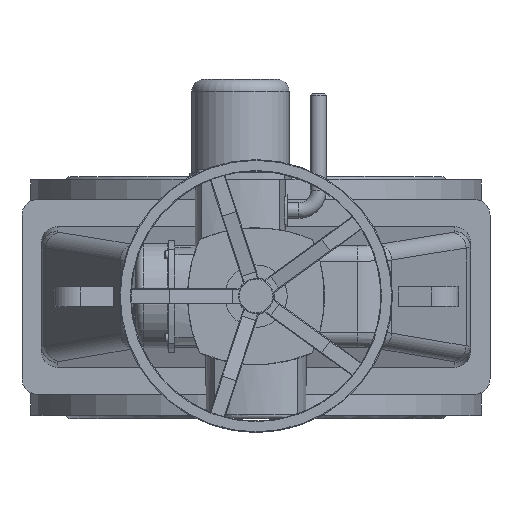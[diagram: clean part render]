
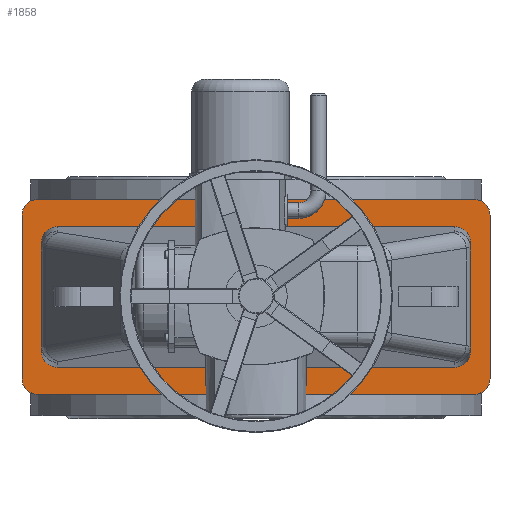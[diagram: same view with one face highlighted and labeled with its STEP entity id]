
A CAD part, top view. The second image highlights one B-rep face of the part: STEP entity #1858.
In plain terms, the highlighted planar face has unit normal (0, 0, 1).
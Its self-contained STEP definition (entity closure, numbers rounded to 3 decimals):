
#1858=ADVANCED_FACE('',(#8162,#8164),#8166,.T.);
#8162=FACE_BOUND('',#8163,.T.);
#8163=EDGE_LOOP('',(#13186,#13187,#13188,#13189,#13190,#13191,#13192,#13193));
#8164=FACE_BOUND('',#8165,.T.);
#8165=EDGE_LOOP('',(#13194,#13195,#13196,#13197,#13198,#13199,#13200,#13201));
#8166=PLANE('',#8167);
#8167=AXIS2_PLACEMENT_3D('',#8168,#8169,#8170);
#8168=CARTESIAN_POINT('',(0.,0.,466.));
#8169=DIRECTION('',(0.,-0.,1.));
#8170=DIRECTION('',(0.,1.,0.));
#13186=ORIENTED_EDGE('',*,*,#15236,.F.);
#13187=ORIENTED_EDGE('',*,*,#15249,.T.);
#13188=ORIENTED_EDGE('',*,*,#15248,.F.);
#13189=ORIENTED_EDGE('',*,*,#15246,.T.);
#13190=ORIENTED_EDGE('',*,*,#15244,.F.);
#13191=ORIENTED_EDGE('',*,*,#15242,.T.);
#13192=ORIENTED_EDGE('',*,*,#15240,.F.);
#13193=ORIENTED_EDGE('',*,*,#15237,.T.);
#13194=ORIENTED_EDGE('',*,*,#15250,.F.);
#13195=ORIENTED_EDGE('',*,*,#15251,.F.);
#13196=ORIENTED_EDGE('',*,*,#15252,.F.);
#13197=ORIENTED_EDGE('',*,*,#15253,.F.);
#13198=ORIENTED_EDGE('',*,*,#15254,.F.);
#13199=ORIENTED_EDGE('',*,*,#15255,.F.);
#13200=ORIENTED_EDGE('',*,*,#15256,.F.);
#13201=ORIENTED_EDGE('',*,*,#15257,.F.);
#15236=EDGE_CURVE('',#16937,#16935,#16939,.F.);
#15237=EDGE_CURVE('',#16940,#16935,#16941,.T.);
#15240=EDGE_CURVE('',#16940,#16943,#16945,.F.);
#15242=EDGE_CURVE('',#16946,#16943,#16948,.T.);
#15244=EDGE_CURVE('',#16946,#16949,#16951,.F.);
#15246=EDGE_CURVE('',#16952,#16949,#16954,.T.);
#15248=EDGE_CURVE('',#16952,#16955,#16957,.F.);
#15249=EDGE_CURVE('',#16937,#16955,#16958,.T.);
#15250=EDGE_CURVE('',#16959,#16960,#16961,.F.);
#15251=EDGE_CURVE('',#16962,#16959,#16963,.T.);
#15252=EDGE_CURVE('',#16964,#16962,#16965,.T.);
#15253=EDGE_CURVE('',#16966,#16964,#16967,.T.);
#15254=EDGE_CURVE('',#16968,#16966,#16969,.F.);
#15255=EDGE_CURVE('',#16970,#16968,#16971,.T.);
#15256=EDGE_CURVE('',#16972,#16970,#16973,.T.);
#15257=EDGE_CURVE('',#16960,#16972,#16974,.T.);
#16935=VERTEX_POINT('',#22575);
#16937=VERTEX_POINT('',#22579);
#16939=CIRCLE('',#22583,20.);
#16940=VERTEX_POINT('',#22587);
#16941=LINE('',#22588,#22589);
#16943=VERTEX_POINT('',#22594);
#16945=CIRCLE('',#22598,20.);
#16946=VERTEX_POINT('',#22602);
#16948=LINE('',#22606,#22607);
#16949=VERTEX_POINT('',#22609);
#16951=CIRCLE('',#22613,20.);
#16952=VERTEX_POINT('',#22617);
#16954=LINE('',#22621,#22622);
#16955=VERTEX_POINT('',#22624);
#16957=CIRCLE('',#22628,20.);
#16958=LINE('',#22632,#22633);
#16959=VERTEX_POINT('',#22635);
#16960=VERTEX_POINT('',#22636);
#16961=(BOUNDED_CURVE()B_SPLINE_CURVE(3,
(#22637,#22638,#22639,#22640),
.UNSPECIFIED.,.F.,.F.)B_SPLINE_CURVE_WITH_KNOTS((4,4),
(0.,1.),
.UNSPECIFIED.)CURVE()GEOMETRIC_REPRESENTATION_ITEM()RATIONAL_B_SPLINE_CURVE((1.,
0.805,0.805,1.))REPRESENTATION_ITEM(''));
#16962=VERTEX_POINT('',#22641);
#16963=LINE('',#22642,#22643);
#16964=VERTEX_POINT('',#22645);
#16965=(BOUNDED_CURVE()B_SPLINE_CURVE(3,
(#22646,#22647,#22648,#22649),
.UNSPECIFIED.,.F.,.F.)B_SPLINE_CURVE_WITH_KNOTS((4,4),
(0.,1.),
.UNSPECIFIED.)CURVE()GEOMETRIC_REPRESENTATION_ITEM()RATIONAL_B_SPLINE_CURVE((1.,
0.805,0.805,1.))REPRESENTATION_ITEM(''));
#16966=VERTEX_POINT('',#22650);
#16967=LINE('',#22651,#22652);
#16968=VERTEX_POINT('',#22654);
#16969=(BOUNDED_CURVE()B_SPLINE_CURVE(3,
(#22655,#22656,#22657,#22658),
.UNSPECIFIED.,.F.,.F.)B_SPLINE_CURVE_WITH_KNOTS((4,4),
(0.,1.),
.UNSPECIFIED.)CURVE()GEOMETRIC_REPRESENTATION_ITEM()RATIONAL_B_SPLINE_CURVE((1.,
0.805,0.805,1.))REPRESENTATION_ITEM(''));
#16970=VERTEX_POINT('',#22659);
#16971=LINE('',#22660,#22661);
#16972=VERTEX_POINT('',#22663);
#16973=(BOUNDED_CURVE()B_SPLINE_CURVE(3,
(#22664,#22665,#22666,#22667),
.UNSPECIFIED.,.F.,.F.)B_SPLINE_CURVE_WITH_KNOTS((4,4),
(0.,1.),
.UNSPECIFIED.)CURVE()GEOMETRIC_REPRESENTATION_ITEM()RATIONAL_B_SPLINE_CURVE((1.,
0.805,0.805,1.))REPRESENTATION_ITEM(''));
#16974=LINE('',#22668,#22669);
#22575=CARTESIAN_POINT('',(-300.,-105.,466.));
#22579=CARTESIAN_POINT('',(-280.,-125.,466.));
#22583=AXIS2_PLACEMENT_3D('',#22584,#22585,#22586);
#22584=CARTESIAN_POINT('',(-280.,-105.,466.));
#22585=DIRECTION('',(0.,-0.,1.));
#22586=DIRECTION('',(-1.,0.,0.));
#22587=CARTESIAN_POINT('',(-300.,105.,466.));
#22588=CARTESIAN_POINT('',(-300.,105.,466.));
#22589=VECTOR('',#22590,1.);
#22590=DIRECTION('',(0.,-1.,0.));
#22594=CARTESIAN_POINT('',(-280.,125.,466.));
#22598=AXIS2_PLACEMENT_3D('',#22599,#22600,#22601);
#22599=CARTESIAN_POINT('',(-280.,105.,466.));
#22600=DIRECTION('',(0.,-0.,1.));
#22601=DIRECTION('',(0.,1.,0.));
#22602=CARTESIAN_POINT('',(280.,125.,466.));
#22606=CARTESIAN_POINT('',(280.,125.,466.));
#22607=VECTOR('',#22608,1.);
#22608=DIRECTION('',(-1.,0.,0.));
#22609=CARTESIAN_POINT('',(300.,105.,466.));
#22613=AXIS2_PLACEMENT_3D('',#22614,#22615,#22616);
#22614=CARTESIAN_POINT('',(280.,105.,466.));
#22615=DIRECTION('',(0.,-0.,1.));
#22616=DIRECTION('',(1.,0.,0.));
#22617=CARTESIAN_POINT('',(300.,-105.,466.));
#22621=CARTESIAN_POINT('',(300.,-105.,466.));
#22622=VECTOR('',#22623,1.);
#22623=DIRECTION('',(0.,1.,0.));
#22624=CARTESIAN_POINT('',(280.,-125.,466.));
#22628=AXIS2_PLACEMENT_3D('',#22629,#22630,#22631);
#22629=CARTESIAN_POINT('',(280.,-105.,466.));
#22630=DIRECTION('',(0.,-0.,1.));
#22631=DIRECTION('',(0.,-1.,0.));
#22632=CARTESIAN_POINT('',(-280.,-125.,466.));
#22633=VECTOR('',#22634,1.);
#22634=DIRECTION('',(1.,0.,0.));
#22635=CARTESIAN_POINT('',(255.,-90.,466.));
#22636=CARTESIAN_POINT('',(275.,-69.924,466.));
#22637=CARTESIAN_POINT('',(275.,-69.924,466.));
#22638=CARTESIAN_POINT('',(275.,-81.684,466.));
#22639=CARTESIAN_POINT('',(266.716,-90.,466.));
#22640=CARTESIAN_POINT('',(255.,-90.,466.));
#22641=CARTESIAN_POINT('',(-255.,-90.,466.));
#22642=CARTESIAN_POINT('',(-255.,-90.,466.));
#22643=VECTOR('',#22644,1.);
#22644=DIRECTION('',(1.,0.,0.));
#22645=CARTESIAN_POINT('',(-275.,-69.924,466.));
#22646=CARTESIAN_POINT('',(-275.,-69.924,466.));
#22647=CARTESIAN_POINT('',(-275.,-81.684,466.));
#22648=CARTESIAN_POINT('',(-266.716,-90.,466.));
#22649=CARTESIAN_POINT('',(-255.,-90.,466.));
#22650=CARTESIAN_POINT('',(-275.,69.924,466.));
#22651=CARTESIAN_POINT('',(-275.,69.924,466.));
#22652=VECTOR('',#22653,1.);
#22653=DIRECTION('',(0.,-1.,0.));
#22654=CARTESIAN_POINT('',(-255.,90.,466.));
#22655=CARTESIAN_POINT('',(-275.,69.924,466.));
#22656=CARTESIAN_POINT('',(-275.,81.684,466.));
#22657=CARTESIAN_POINT('',(-266.716,90.,466.));
#22658=CARTESIAN_POINT('',(-255.,90.,466.));
#22659=CARTESIAN_POINT('',(255.,90.,466.));
#22660=CARTESIAN_POINT('',(255.,90.,466.));
#22661=VECTOR('',#22662,1.);
#22662=DIRECTION('',(-1.,0.,0.));
#22663=CARTESIAN_POINT('',(275.,69.924,466.));
#22664=CARTESIAN_POINT('',(275.,69.924,466.));
#22665=CARTESIAN_POINT('',(275.,81.684,466.));
#22666=CARTESIAN_POINT('',(266.716,90.,466.));
#22667=CARTESIAN_POINT('',(255.,90.,466.));
#22668=CARTESIAN_POINT('',(275.,-69.924,466.));
#22669=VECTOR('',#22670,1.);
#22670=DIRECTION('',(0.,1.,0.));
